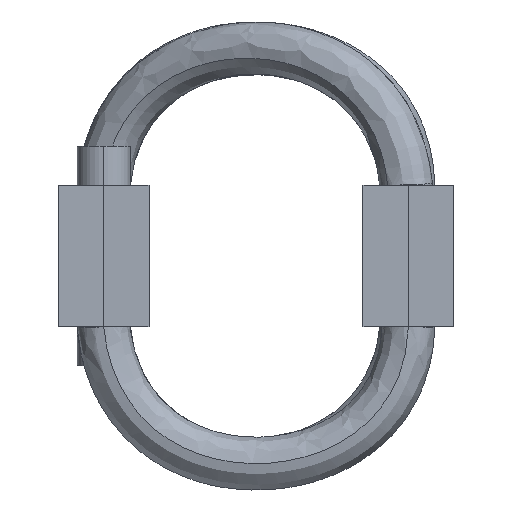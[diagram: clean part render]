
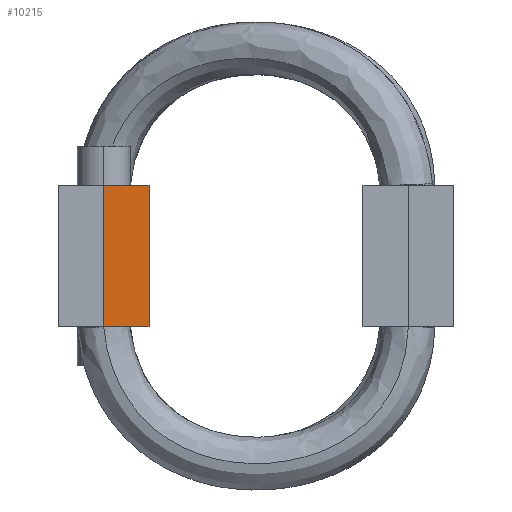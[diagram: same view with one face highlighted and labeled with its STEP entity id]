
A CAD part, left-side view. The second image highlights one B-rep face of the part: STEP entity #10215.
In plain terms, the highlighted planar face has unit normal (-1, 0, 0).
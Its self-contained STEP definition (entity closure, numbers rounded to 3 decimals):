
#1046 = LINE ( 'NONE', #10840, #16637 ) ;
#3248 = EDGE_CURVE ( 'NONE', #24261, #9138, #1046, .T. ) ;
#4157 = CARTESIAN_POINT ( 'NONE',  ( -84.6, 19.2, 12.7 ) ) ;
#4403 = DIRECTION ( 'NONE',  ( 0., -1., 0. ) ) ;
#5032 = LINE ( 'NONE', #5070, #26055 ) ;
#5070 = CARTESIAN_POINT ( 'NONE',  ( -84.6, 19.2, -12.7 ) ) ;
#7118 = DIRECTION ( 'NONE',  ( 0., 0., 1. ) ) ;
#9138 = VERTEX_POINT ( 'NONE', #13517 ) ;
#9384 = CARTESIAN_POINT ( 'NONE',  ( -84.6, 19.2, 12.7 ) ) ;
#10170 = DIRECTION ( 'NONE',  ( -1., 0., 0. ) ) ;
#10215 = ADVANCED_FACE ( 'NONE', ( #18131 ), #16234, .T. ) ;
#10767 = LINE ( 'NONE', #18620, #16177 ) ;
#10840 = CARTESIAN_POINT ( 'NONE',  ( -84.6, 27.35, -12.7 ) ) ;
#11349 = EDGE_CURVE ( 'NONE', #22493, #24261, #23205, .T. ) ;
#11733 = VECTOR ( 'NONE', #14283, 1000. ) ;
#11799 = EDGE_CURVE ( 'NONE', #9138, #22335, #10767, .T. ) ;
#12138 = EDGE_CURVE ( 'NONE', #22335, #22493, #5032, .T. ) ;
#12696 = CARTESIAN_POINT ( 'NONE',  ( -84.6, 19.2, -12.7 ) ) ;
#12896 = DIRECTION ( 'NONE',  ( 0., 0., -1. ) ) ;
#13105 = ORIENTED_EDGE ( 'NONE', *, *, #12138, .T. ) ;
#13517 = CARTESIAN_POINT ( 'NONE',  ( -84.6, 27.35, -12.7 ) ) ;
#14283 = DIRECTION ( 'NONE',  ( 0., 1., 0. ) ) ;
#15218 = ORIENTED_EDGE ( 'NONE', *, *, #3248, .T. ) ;
#16177 = VECTOR ( 'NONE', #4403, 1000. ) ;
#16234 = PLANE ( 'NONE',  #17041 ) ;
#16637 = VECTOR ( 'NONE', #12896, 1000. ) ;
#17041 = AXIS2_PLACEMENT_3D ( 'NONE', #22371, #10170, #24420 ) ;
#18131 = FACE_OUTER_BOUND ( 'NONE', #23931, .T. ) ;
#18620 = CARTESIAN_POINT ( 'NONE',  ( -84.6, 19.2, -12.7 ) ) ;
#19129 = ORIENTED_EDGE ( 'NONE', *, *, #11799, .T. ) ;
#22335 = VERTEX_POINT ( 'NONE', #12696 ) ;
#22371 = CARTESIAN_POINT ( 'NONE',  ( -84.6, 23.275, 0. ) ) ;
#22493 = VERTEX_POINT ( 'NONE', #9384 ) ;
#23205 = LINE ( 'NONE', #4157, #11733 ) ;
#23931 = EDGE_LOOP ( 'NONE', ( #25084, #15218, #19129, #13105 ) ) ;
#24261 = VERTEX_POINT ( 'NONE', #26385 ) ;
#24420 = DIRECTION ( 'NONE',  ( 0., 0., 1. ) ) ;
#25084 = ORIENTED_EDGE ( 'NONE', *, *, #11349, .T. ) ;
#26055 = VECTOR ( 'NONE', #7118, 1000. ) ;
#26385 = CARTESIAN_POINT ( 'NONE',  ( -84.6, 27.35, 12.7 ) ) ;
